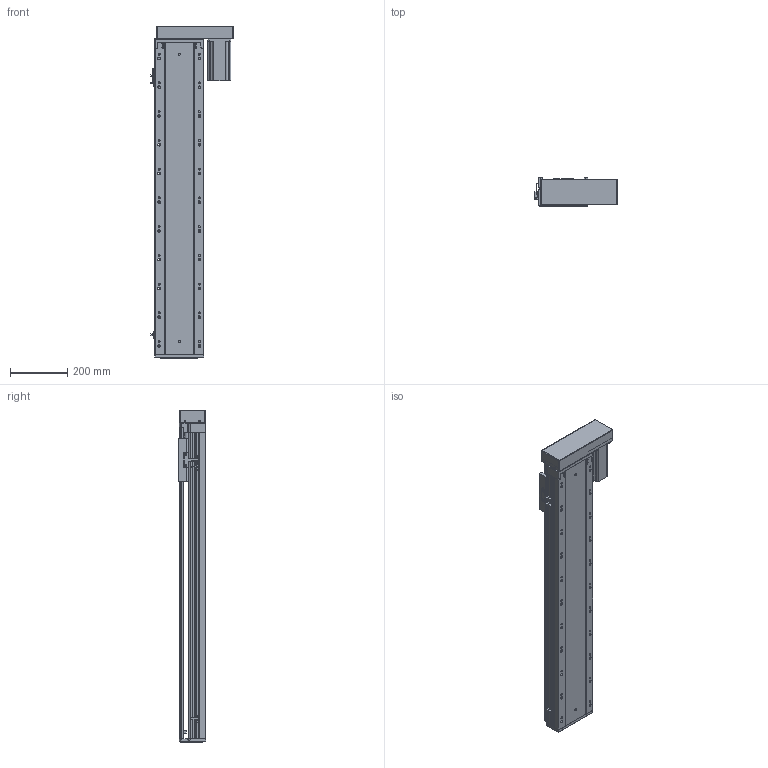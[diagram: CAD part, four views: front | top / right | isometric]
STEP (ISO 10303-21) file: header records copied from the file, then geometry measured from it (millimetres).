
FILE_DESCRIPTION (( 'STEP AP203' ), '1' );
FILE_NAME ('RY170-L2510-300-RK.SLDASM_850.step', '2021-03-12T09:19:47', ( '盈信电脑' ), ( '东莞市道滘镇水果街19号' ), 'SwSTEP 2.0', 'SolidWorks 2012', '' );
FILE_SCHEMA (( 'CONFIG_CONTROL_DESIGN' ));
Length unit declared in the file: millimetre
Products named in the file (14): RY170外置感应片(200共用）; RY170-L2510-300-RK.SLDASM_850; RY170酘衵殏萇儂欶750W; RY170-酘衵殏750W萇儂傷; 怢湛750W萇儂ㄗ80遺ㄘ; 覜茼ん672; RY170-左右折电机安装板750W; RY170转折电机端支撑座(7004); RY170綴裔啣; 滅袉蝶18-20; 滅袉蝶18-10; 改造-RY170铝滑块25丝杆螺母; RY170-300倰第裔啣-RK_850; RY170-300倰第菁釱-RK_850
Assembly tree (15 placements, depth 3):
  RY170-L2510-300-RK.SLDASM_850
    RY170-300倰第菁釱-RK_850
    改造-RY170铝滑块25丝杆螺母
    RY170-300倰第裔啣-RK_850
    RY170綴裔啣
    滅袉蝶18-20
    滅袉蝶18-10
    RY170转折电机端支撑座(7004)
    RY170-酘衵殏750W萇儂傷
      RY170-左右折电机安装板750W
      RY170酘衵殏萇儂欶750W
      怢湛750W萇儂ㄗ80遺ㄘ
    覜茼ん672  x3
    RY170外置感应片(200共用）
Bounding box: 286.2 x 97 x 1155 mm (x, y, z)
Volume: 6564555.4 mm3; surface area: 2034898 mm2
Topology: 14 solids, 14 shells, 2279 faces, 6630 edges, 4270 vertices
Faces by surface type: plane 1094, cylinder 992, cone 174, bspline 19
Entity records: 75571 total; most frequent: CARTESIAN_POINT 18933, ORIENTED_EDGE 12004, DIRECTION 10910, EDGE_CURVE 6002, VERTEX_POINT 3950, AXIS2_PLACEMENT_3D 3665, VECTOR 3580, LINE 3580
